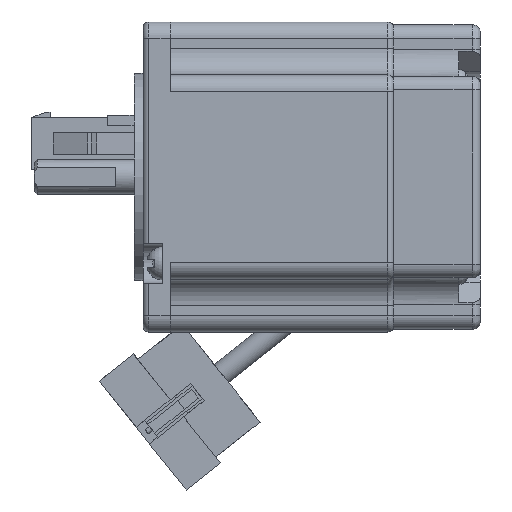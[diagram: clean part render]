
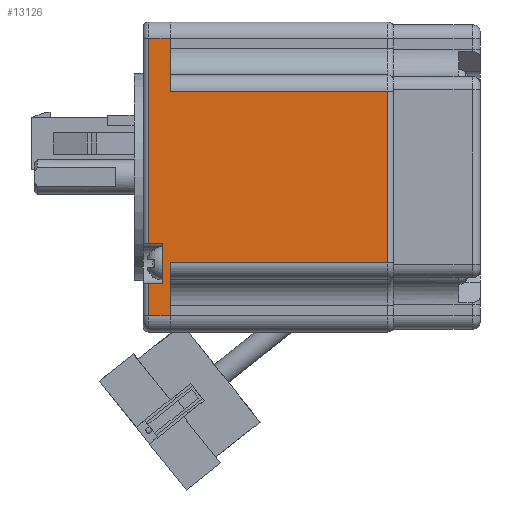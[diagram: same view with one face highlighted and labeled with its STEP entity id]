
A CAD part, front view. The second image highlights one B-rep face of the part: STEP entity #13126.
In plain terms, the highlighted planar face has unit normal (0, -1, 0).
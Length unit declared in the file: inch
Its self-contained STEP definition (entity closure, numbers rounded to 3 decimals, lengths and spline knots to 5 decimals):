
#467=LINE('',#20590,#1644);
#674=LINE('',#21594,#1851);
#676=LINE('',#21599,#1853);
#677=LINE('',#21601,#1854);
#678=LINE('',#21605,#1855);
#679=LINE('',#21607,#1856);
#686=LINE('',#21627,#1863);
#691=LINE('',#21645,#1868);
#729=LINE('',#21751,#1906);
#732=LINE('',#21759,#1909);
#737=LINE('',#21775,#1914);
#738=LINE('',#21777,#1915);
#1644=VECTOR('',#16376,1.24173);
#1851=VECTOR('',#17139,0.29134);
#1853=VECTOR('',#17145,0.09843);
#1854=VECTOR('',#17148,0.23228);
#1855=VECTOR('',#17153,1.48425);
#1856=VECTOR('',#17156,0.09843);
#1863=VECTOR('',#17175,0.38307);
#1868=VECTOR('',#17192,0.15748);
#1906=VECTOR('',#17302,0.15748);
#1909=VECTOR('',#17309,0.38307);
#1914=VECTOR('',#17326,1.5748);
#1915=VECTOR('',#17329,1.5748);
#3144=FACE_OUTER_BOUND('',#4225,.T.);
#4225=EDGE_LOOP('',(#10578,#10579,#10580,#10581,#10582,#10583,#10584,#10585,
#10586,#10587,#10588,#10589));
#5704=VERTEX_POINT('',#20580);
#5706=VERTEX_POINT('',#20586);
#5958=VERTEX_POINT('',#21431);
#6001=VERTEX_POINT('',#21587);
#6002=VERTEX_POINT('',#21591);
#6003=VERTEX_POINT('',#21593);
#6004=VERTEX_POINT('',#21597);
#6005=VERTEX_POINT('',#21603);
#6011=VERTEX_POINT('',#21625);
#6012=VERTEX_POINT('',#21626);
#6051=VERTEX_POINT('',#21750);
#6054=VERTEX_POINT('',#21758);
#7200=EDGE_CURVE('',#5706,#5704,#467,.T.);
#7593=EDGE_CURVE('',#6003,#6002,#674,.T.);
#7596=EDGE_CURVE('',#6002,#6004,#676,.T.);
#7597=EDGE_CURVE('',#6004,#5958,#677,.T.);
#7599=EDGE_CURVE('',#6001,#6005,#678,.T.);
#7600=EDGE_CURVE('',#6005,#6003,#679,.T.);
#7609=EDGE_CURVE('',#6011,#6012,#686,.T.);
#7619=EDGE_CURVE('',#5958,#6011,#691,.T.);
#7672=EDGE_CURVE('',#6051,#6001,#729,.T.);
#7676=EDGE_CURVE('',#6054,#6051,#732,.T.);
#7685=EDGE_CURVE('',#5704,#6054,#737,.T.);
#7686=EDGE_CURVE('',#5706,#6012,#738,.T.);
#10578=ORIENTED_EDGE('',*,*,#7686,.F.);
#10579=ORIENTED_EDGE('',*,*,#7200,.T.);
#10580=ORIENTED_EDGE('',*,*,#7685,.T.);
#10581=ORIENTED_EDGE('',*,*,#7676,.T.);
#10582=ORIENTED_EDGE('',*,*,#7672,.T.);
#10583=ORIENTED_EDGE('',*,*,#7599,.T.);
#10584=ORIENTED_EDGE('',*,*,#7600,.T.);
#10585=ORIENTED_EDGE('',*,*,#7593,.T.);
#10586=ORIENTED_EDGE('',*,*,#7596,.T.);
#10587=ORIENTED_EDGE('',*,*,#7597,.T.);
#10588=ORIENTED_EDGE('',*,*,#7619,.T.);
#10589=ORIENTED_EDGE('',*,*,#7609,.T.);
#12492=PLANE('',#14324);
#13126=ADVANCED_FACE('',(#3144),#12492,.T.);
#14324=AXIS2_PLACEMENT_3D('',#21776,#17327,#17328);
#16376=DIRECTION('',(0.,0.,1.));
#17139=DIRECTION('',(0.,0.,-1.));
#17145=DIRECTION('',(-1.,0.,0.));
#17148=DIRECTION('',(0.,0.,-1.));
#17153=DIRECTION('',(0.,0.,-1.));
#17156=DIRECTION('',(1.,0.,0.));
#17175=DIRECTION('',(0.,0.,1.));
#17192=DIRECTION('',(1.,0.,0.));
#17302=DIRECTION('',(-1.,0.,0.));
#17309=DIRECTION('',(0.,0.,1.));
#17326=DIRECTION('',(-1.,0.,0.));
#17327=DIRECTION('center_axis',(0.,-1.,0.));
#17328=DIRECTION('ref_axis',(-1.,0.,0.));
#17329=DIRECTION('',(-1.,0.,0.));
#20580=CARTESIAN_POINT('',(3.09167,-2.24409,1.74291));
#20586=CARTESIAN_POINT('',(3.09167,-2.24409,0.50118));
#20590=CARTESIAN_POINT('',(3.09167,-2.24409,0.));
#21431=CARTESIAN_POINT('',(1.35939,-2.24409,0.11811));
#21587=CARTESIAN_POINT('',(1.35939,-2.24409,2.12598));
#21591=CARTESIAN_POINT('',(1.45781,-2.24409,0.35039));
#21593=CARTESIAN_POINT('',(1.45781,-2.24409,0.64173));
#21594=CARTESIAN_POINT('',(1.45781,-2.24409,0.));
#21597=CARTESIAN_POINT('',(1.35939,-2.24409,0.35039));
#21599=CARTESIAN_POINT('',(3.17041,-2.24409,0.35039));
#21601=CARTESIAN_POINT('',(1.35939,-2.24409,0.));
#21603=CARTESIAN_POINT('',(1.35939,-2.24409,0.64173));
#21605=CARTESIAN_POINT('',(1.35939,-2.24409,0.));
#21607=CARTESIAN_POINT('',(3.17041,-2.24409,0.64173));
#21625=CARTESIAN_POINT('',(1.51687,-2.24409,0.11811));
#21626=CARTESIAN_POINT('',(1.51687,-2.24409,0.50118));
#21627=CARTESIAN_POINT('',(1.51687,-2.24409,0.));
#21645=CARTESIAN_POINT('',(3.17041,-2.24409,0.11811));
#21750=CARTESIAN_POINT('',(1.51687,-2.24409,2.12598));
#21751=CARTESIAN_POINT('',(3.17041,-2.24409,2.12598));
#21758=CARTESIAN_POINT('',(1.51687,-2.24409,1.74291));
#21759=CARTESIAN_POINT('',(1.51687,-2.24409,0.));
#21775=CARTESIAN_POINT('',(3.17041,-2.24409,1.74291));
#21776=CARTESIAN_POINT('Origin',(3.17041,-2.24409,0.));
#21777=CARTESIAN_POINT('',(1.51687,-2.24409,0.50118));
